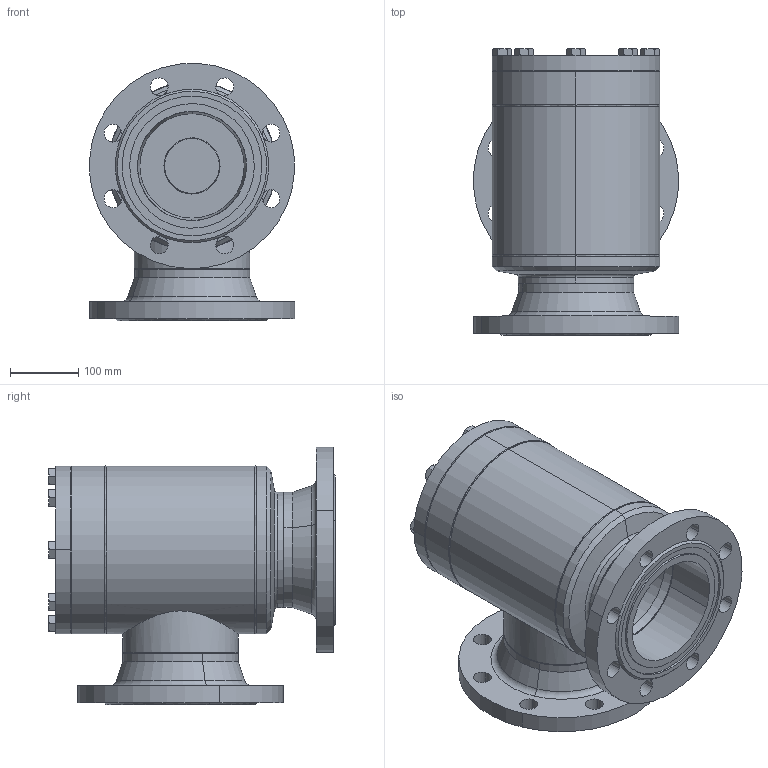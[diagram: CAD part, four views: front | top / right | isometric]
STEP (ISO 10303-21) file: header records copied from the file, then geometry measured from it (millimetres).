
FILE_DESCRIPTION (( 'STEP AP214' ), '1' );
FILE_NAME ('RV28420D21-DN150_DIN-FL-N_PS40.STEP', '2006-04-28T05:30:43', ( 'Herr Grams' ), ( 'AWP GmbH' ), 'SwSTEP 2.0', 'SolidWorks 2002296', '' );
FILE_SCHEMA (( 'AUTOMOTIVE_DESIGN' ));
Length unit declared in the file: millimetre
Products named in the file (17): RV28420D21-DN150_DIN-FL-N_PS40; RV28300E21_Deck+Schr-DN150_Standard; Deckel-kpl28300E21-DN150_Standard; Scheibe f Deckel28300-DN150_Standard; Buchse f Deckel28300-DN150_Standard; bead-deck283-150_Standard; Sechskantschraube-DIN933_M16x 45; Gehäuse-kpl16420-DN150_DIN_PS40_Standard; bead-DN150-4_Standard; bead-DN150-3_Standard; bead-DN150-2_Standard; bead-DN150-1_Standard; Kopfstück16300-DN150_Standard; Boden16300-DN150_Standard; Gehäuse16300-DN150_Standard; Rohrstutzen-A16300-DN150_R1_Standard; Flansch-DIN-Nut_PS40_DIN-Flansch-DN150_PS40-Nut
Assembly tree (24 placements, depth 4):
  RV28420D21-DN150_DIN-FL-N_PS40
    Gehäuse-kpl16420-DN150_DIN_PS40_Standard
      Flansch-DIN-Nut_PS40_DIN-Flansch-DN150_PS40-Nut  x2
      bead-DN150-1_Standard
      bead-DN150-4_Standard
      bead-DN150-2_Standard
      Kopfstück16300-DN150_Standard
      bead-DN150-3_Standard
      Gehäuse16300-DN150_Standard
      Rohrstutzen-A16300-DN150_R1_Standard
      Boden16300-DN150_Standard
    RV28300E21_Deck+Schr-DN150_Standard
      Sechskantschraube-DIN933_M16x 45  x8
      Deckel-kpl28300E21-DN150_Standard
        bead-deck283-150_Standard
        Scheibe f Deckel28300-DN150_Standard
        Buchse f Deckel28300-DN150_Standard
Bounding box: 299.71 x 418.5 x 375.86 mm (x, y, z)
Volume: 8465681.9 mm3; surface area: 1280847.2 mm2
Topology: 21 solids, 21 shells, 379 faces, 850 edges, 514 vertices
Faces by surface type: cone 128, cylinder 119, plane 108, bspline 18, torus 6
Entity records: 8567 total; most frequent: CARTESIAN_POINT 3937, DIRECTION 840, ORIENTED_EDGE 764, EDGE_CURVE 382, AXIS2_PLACEMENT_3D 370, VERTEX_POINT 240, EDGE_LOOP 218, CIRCLE 192
